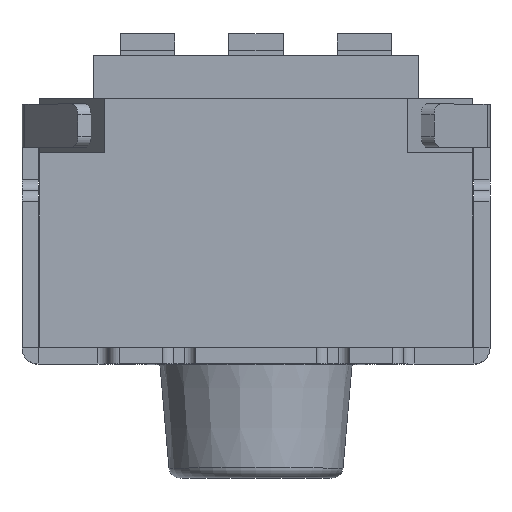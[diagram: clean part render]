
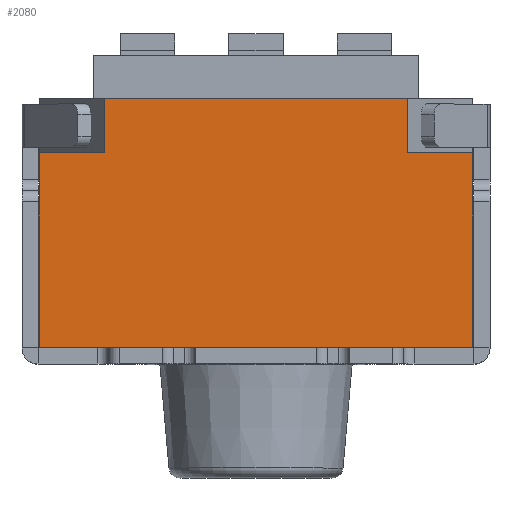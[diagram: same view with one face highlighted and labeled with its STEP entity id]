
A CAD part, top view. The second image highlights one B-rep face of the part: STEP entity #2080.
In plain terms, the highlighted planar face has unit normal (0, 0, 1).
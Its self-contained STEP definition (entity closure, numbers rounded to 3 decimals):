
#56=DIRECTION('',(1.,0.,0.));
#57=VECTOR('',#56,4.);
#58=CARTESIAN_POINT('',(-2.,0.,1.625));
#59=LINE('',#58,#57);
#728=DIRECTION('',(1.,0.,0.));
#729=VECTOR('',#728,0.6);
#730=CARTESIAN_POINT('',(-2.,1.8,1.625));
#731=LINE('',#730,#729);
#735=DIRECTION('',(0.,-1.,0.));
#736=VECTOR('',#735,0.5);
#737=CARTESIAN_POINT('',(-1.4,2.3,1.625));
#738=LINE('',#737,#736);
#742=DIRECTION('',(1.,0.,0.));
#743=VECTOR('',#742,2.8);
#744=CARTESIAN_POINT('',(-1.4,2.3,1.625));
#745=LINE('',#744,#743);
#749=DIRECTION('',(0.,-1.,0.));
#750=VECTOR('',#749,0.5);
#751=CARTESIAN_POINT('',(1.4,2.3,1.625));
#752=LINE('',#751,#750);
#756=DIRECTION('',(1.,0.,0.));
#757=VECTOR('',#756,0.6);
#758=CARTESIAN_POINT('',(1.4,1.8,1.625));
#759=LINE('',#758,#757);
#763=DIRECTION('',(0.,1.,0.));
#764=VECTOR('',#763,1.8);
#765=CARTESIAN_POINT('',(-2.,0.,1.625));
#766=LINE('',#765,#764);
#812=DIRECTION('',(0.,1.,0.));
#813=VECTOR('',#812,1.8);
#814=CARTESIAN_POINT('',(2.,0.,1.625));
#815=LINE('',#814,#813);
#1293=CARTESIAN_POINT('',(-2.,0.,1.625));
#1294=CARTESIAN_POINT('',(2.,0.,1.625));
#1295=VERTEX_POINT('',#1293);
#1296=VERTEX_POINT('',#1294);
#1346=CARTESIAN_POINT('',(-2.,1.8,1.625));
#1348=VERTEX_POINT('',#1346);
#1353=CARTESIAN_POINT('',(-1.4,1.8,1.625));
#1354=VERTEX_POINT('',#1353);
#1355=CARTESIAN_POINT('',(1.4,1.8,1.625));
#1356=CARTESIAN_POINT('',(2.,1.8,1.625));
#1357=VERTEX_POINT('',#1355);
#1358=VERTEX_POINT('',#1356);
#1359=CARTESIAN_POINT('',(-1.4,2.3,1.625));
#1360=VERTEX_POINT('',#1359);
#1361=CARTESIAN_POINT('',(1.4,2.3,1.625));
#1362=VERTEX_POINT('',#1361);
#2063=CARTESIAN_POINT('',(-2.,0.,1.625));
#2064=DIRECTION('',(0.,0.,1.));
#2065=DIRECTION('',(1.,0.,0.));
#2066=AXIS2_PLACEMENT_3D('',#2063,#2064,#2065);
#2067=PLANE('',#2066);
#2068=ORIENTED_EDGE('',*,*,#1902,.T.);
#2069=ORIENTED_EDGE('',*,*,#2057,.F.);
#2070=ORIENTED_EDGE('',*,*,#2045,.T.);
#2072=ORIENTED_EDGE('',*,*,#2071,.T.);
#2073=ORIENTED_EDGE('',*,*,#1912,.T.);
#2075=ORIENTED_EDGE('',*,*,#2074,.F.);
#2076=ORIENTED_EDGE('',*,*,#1534,.F.);
#2077=ORIENTED_EDGE('',*,*,#2004,.T.);
#2078=EDGE_LOOP('',(#2068,#2069,#2070,#2072,#2073,#2075,#2076,#2077));
#2079=FACE_OUTER_BOUND('',#2078,.F.);
#1534=EDGE_CURVE('',#1295,#1296,#59,.T.);
#1902=EDGE_CURVE('',#1348,#1354,#731,.T.);
#1912=EDGE_CURVE('',#1357,#1358,#759,.T.);
#2004=EDGE_CURVE('',#1295,#1348,#766,.T.);
#2045=EDGE_CURVE('',#1360,#1362,#745,.T.);
#2057=EDGE_CURVE('',#1360,#1354,#738,.T.);
#2071=EDGE_CURVE('',#1362,#1357,#752,.T.);
#2074=EDGE_CURVE('',#1296,#1358,#815,.T.);
#2080=ADVANCED_FACE('',(#2079),#2067,.T.);
